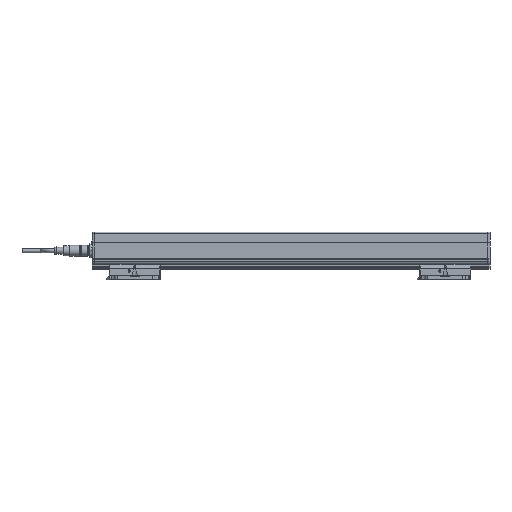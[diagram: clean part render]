
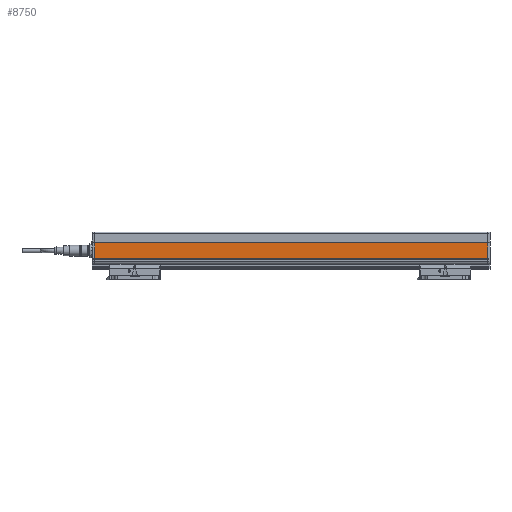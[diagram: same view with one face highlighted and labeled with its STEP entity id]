
A CAD part, front view. The second image highlights one B-rep face of the part: STEP entity #8750.
In plain terms, the highlighted planar face has unit normal (0, -1, 0).
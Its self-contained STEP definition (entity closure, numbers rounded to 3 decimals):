
#8750=ADVANCED_FACE('', (#8760), #8770, .T.);
#79610=AXIS2_PLACEMENT_3D('Ax2Pl3d', #79620, #79630, #79640);
#316190=CARTESIAN_POINT('', (-767.169,-724.87,
344.664));
#316200=CARTESIAN_POINT('', (-767.169,-724.87,
365.637));
#316210=CARTESIAN_POINT('', (-767.169,-724.87,
365.637));
#316470=CARTESIAN_POINT('', (-248.169,-724.87,
365.637));
#316480=CARTESIAN_POINT('', (-248.169,-724.87,
344.664));
#316490=CARTESIAN_POINT('', (-248.169,-724.87,
344.664));
#317240=CARTESIAN_POINT('', (-767.169,-724.87,
344.664));
#79620=CARTESIAN_POINT('HicPkt', (-767.169,-724.87,
344.664));
#317250=CARTESIAN_POINT('', (-767.169,-724.87,
365.637));
#514350=DIRECTION('', (0.,0.,1.));
#514510=DIRECTION('', (0.,0.,-1.));
#514980=DIRECTION('', (-1.,0.,0.));
#79630=DIRECTION('Axis', (0.,-1.,
0.));
#79640=DIRECTION('RefDirection', (0.,
0.,-1.));
#514990=DIRECTION('', (-1.,0.,0.));
#549840=EDGE_CURVE('', #549820, #549850, #549860, .T.);
#550300=EDGE_CURVE('', #550280, #550310, #550320, .T.);
#551640=EDGE_CURVE('', #550310, #549820, #551650, .T.);
#551660=EDGE_CURVE('', #550280, #549850, #551670, .T.);
#657360=EDGE_LOOP('Edge_loop', (#657370,#657380,#657390,#657400));
#8760=FACE_OUTER_BOUND('Face_outer_bound', #657360, .T.);
#549860=LINE('Line', #316200, #762140);
#550320=LINE('Line', #316480, #762300);
#551650=LINE('Line', #317240, #762770);
#551670=LINE('Line', #317250, #762780);
#657370=ORIENTED_EDGE('', *, *, #549840, .F.);
#657380=ORIENTED_EDGE('', *, *, #551640, .F.);
#657390=ORIENTED_EDGE('', *, *, #550300, .F.);
#657400=ORIENTED_EDGE('', *, *, #551660, .T.);
#8770=PLANE('Plane', #79610);
#762140=VECTOR('', #514350, 20.973);
#762300=VECTOR('', #514510, 20.973);
#762770=VECTOR('', #514980, 519.);
#762780=VECTOR('', #514990, 519.);
#549820=VERTEX_POINT('', #316190);
#549850=VERTEX_POINT('', #316210);
#550280=VERTEX_POINT('', #316470);
#550310=VERTEX_POINT('', #316490);
